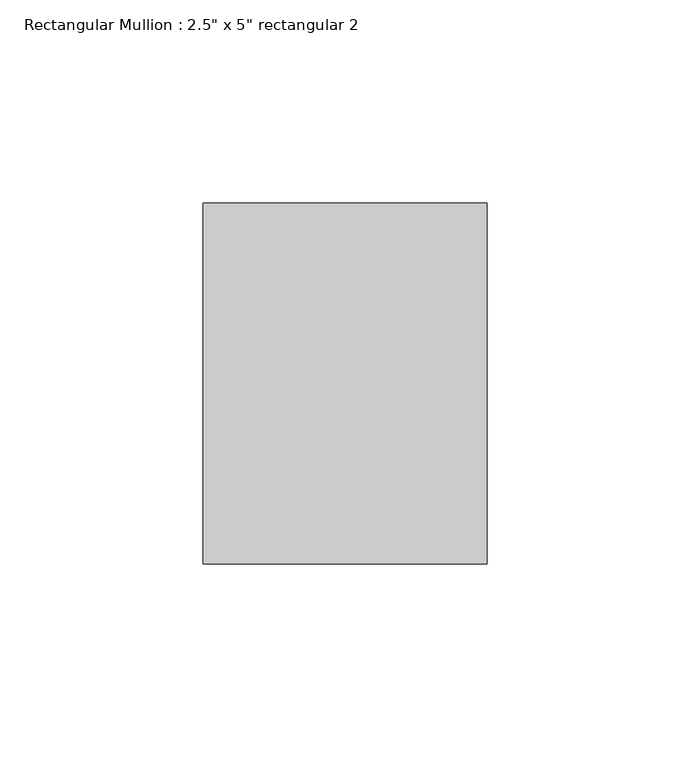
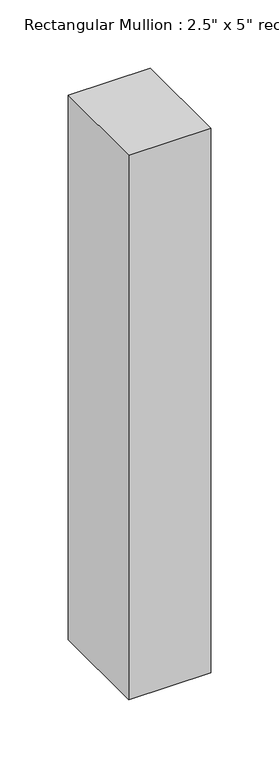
"""IFC4 building model written with IfcOpenShell, lengths in millimetres: member geometry."""

from ifc_helpers import new_model, si_unit, frame, origin, place, context, project, spatial, polyline, outline, extrude, source, transform, mapped, element, save


def member_b640bf99(model_context):
    return source(origin(), model_context, "Body", "SweptSolid", [
        extrude(outline(polyline([(0.0, 44.45), (0.0, -44.45), (-69.85, -44.45), (-69.85, 44.45), (0.0, 44.45)])), frame((0.0, 0.0, -488.6472191), z_axis=(0.0, 0.0, 1.0), x_axis=(1.0, 0.0, 0.0)), (0.0, 0.0, 1.0), 488.6472191),
    ])


if __name__ == "__main__":
    model = new_model("IFC4")
    model_context = context("Model", 3, world=origin())
    ifc_project = project(units=[si_unit("LENGTHUNIT", "METRE", prefix="MILLI")], contexts=[model_context])
    site = spatial("IfcSite", under=ifc_project)
    building = spatial("IfcBuilding", under=site)
    placement = place(None, origin())
    member_shape = member_b640bf99(model_context)
    element("IfcMember", 1, ObjectType="Rectangular Mullion : 2.5\" x 5\" rectangular 2", at=placement, inside=building, context=model_context, shape_type="MappedRepresentation", body=[
        mapped(member_shape, transform((0.0, 0.0, 0.0), x_axis=(1.0, 0.0, 0.0), y_axis=(0.0, 1.0, 0.0), z_axis=(0.0, 0.0, 1.0))),
    ])
    save(model, "model.ifc")
